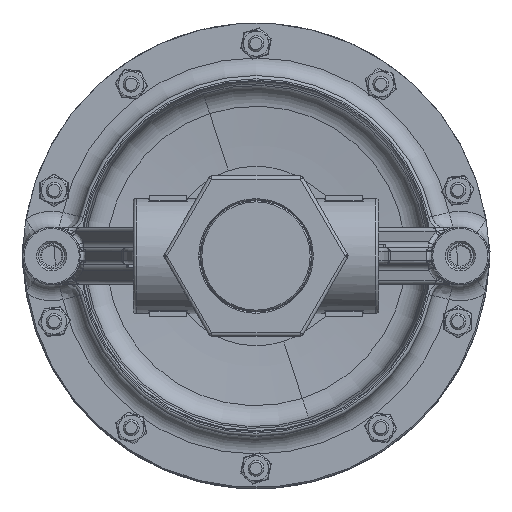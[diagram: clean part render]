
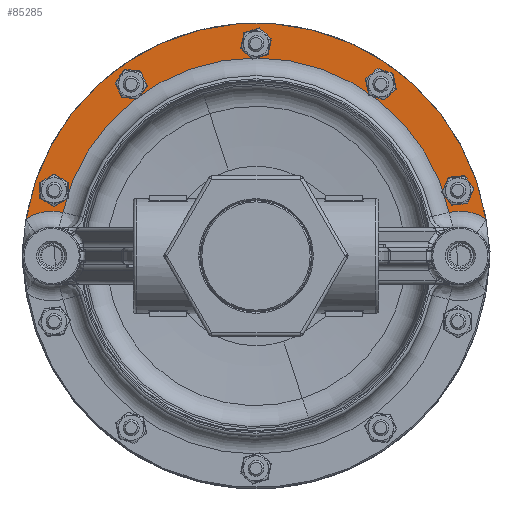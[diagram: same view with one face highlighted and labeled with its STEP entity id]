
A CAD part, front view. The second image highlights one B-rep face of the part: STEP entity #85285.
In plain terms, the highlighted planar face has unit normal (0, -1, 0) as drawn and (0, 0, -1) by its records, which use the part's own axes.
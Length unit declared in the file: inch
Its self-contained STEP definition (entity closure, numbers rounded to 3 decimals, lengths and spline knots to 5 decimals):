
#857 = AXIS2_PLACEMENT_3D ( 'NONE', #29812, #29813, #29814 ) ;
#863 = AXIS2_PLACEMENT_3D ( 'NONE', #29860, #29861, #29862 ) ;
#882 = AXIS2_PLACEMENT_3D ( 'NONE', #29999, #30000, #30001 ) ;
#884 = AXIS2_PLACEMENT_3D ( 'NONE', #30063, #30065, #30066 ) ;
#1033 = AXIS2_PLACEMENT_3D ( 'NONE', #30741, #30742, #30743 ) ;
#1208 = AXIS2_PLACEMENT_3D ( 'NONE', #8040, #8024, #8044 ) ;
#2348 = CARTESIAN_POINT ( 'NONE',  ( -2.10766, -2.67987, 0. ) ) ;
#6445 = VERTEX_POINT ( 'NONE', #85774 ) ;
#6655 = VERTEX_POINT ( 'NONE', #2348 ) ;
#8024 = DIRECTION ( 'NONE',  ( 0., 0., 1. ) ) ;
#8036 = PLANE ( 'NONE',  #1208 ) ;
#8040 = CARTESIAN_POINT ( 'NONE',  ( 0., 3.6875, 0. ) ) ;
#8044 = DIRECTION ( 'NONE',  ( 1., 0., 0. ) ) ;
#9058 = CARTESIAN_POINT ( 'NONE',  ( 2.98975, -1.02362, 0. ) ) ;
#11047 = EDGE_CURVE ( 'NONE', #98810, #98626, #105101, .T. ) ;
#11051 = EDGE_CURVE ( 'NONE', #98626, #83902, #105109, .T. ) ;
#11059 = EDGE_CURVE ( 'NONE', #98418, #6655, #105117, .T. ) ;
#11060 = EDGE_CURVE ( 'NONE', #98415, #98459, #105122, .T. ) ;
#11128 = EDGE_CURVE ( 'NONE', #98798, #6445, #105178, .T. ) ;
#11166 = EDGE_CURVE ( 'NONE', #83898, #98810, #105210, .T. ) ;
#11204 = EDGE_CURVE ( 'NONE', #73296, #73371, #105245, .T. ) ;
#11230 = EDGE_CURVE ( 'NONE', #73272, #85523, #105266, .T. ) ;
#11241 = EDGE_CURVE ( 'NONE', #83902, #83898, #105273, .T. ) ;
#14836 = CIRCLE ( 'NONE', #857, 0.16063 ) ;
#14856 = CIRCLE ( 'NONE', #863, 0.16063 ) ;
#16822 = CARTESIAN_POINT ( 'NONE',  ( 0.16063, -3.3125, 0. ) ) ;
#16825 = CARTESIAN_POINT ( 'NONE',  ( -1.78641, -2.67987, 0. ) ) ;
#16880 = CARTESIAN_POINT ( 'NONE',  ( -0.16063, -3.3125, 0. ) ) ;
#17062 = CARTESIAN_POINT ( 'NONE',  ( -3.01463, -0.67832, 0. ) ) ;
#17400 = CARTESIAN_POINT ( 'NONE',  ( -2.98975, -1.02362, 0. ) ) ;
#17433 = CARTESIAN_POINT ( 'NONE',  ( -3.5867, -0.57501, 0. ) ) ;
#24339 = EDGE_LOOP ( 'NONE', ( #54860, #83532, #54804, #54856 ) ) ;
#24371 = EDGE_LOOP ( 'NONE', ( #81953, #54599 ) ) ;
#24387 = EDGE_LOOP ( 'NONE', ( #54841, #82067 ) ) ;
#24398 = EDGE_LOOP ( 'NONE', ( #83498, #54798 ) ) ;
#24419 = EDGE_LOOP ( 'NONE', ( #82879, #55044 ) ) ;
#24439 = EDGE_LOOP ( 'NONE', ( #54598, #54544 ) ) ;
#29812 = CARTESIAN_POINT ( 'NONE',  ( -1.94704, -2.67987, 0. ) ) ;
#29813 = DIRECTION ( 'NONE',  ( 0., 0., 1. ) ) ;
#29814 = DIRECTION ( 'NONE',  ( 1., 0., 0. ) ) ;
#29860 = CARTESIAN_POINT ( 'NONE',  ( 1.94704, -2.67987, 0. ) ) ;
#29861 = DIRECTION ( 'NONE',  ( 0., 0., 1. ) ) ;
#29862 = DIRECTION ( 'NONE',  ( 1., 0., 0. ) ) ;
#29999 = CARTESIAN_POINT ( 'NONE',  ( -3.15037, -1.02362, 0. ) ) ;
#30000 = DIRECTION ( 'NONE',  ( 0., 0., 1. ) ) ;
#30001 = DIRECTION ( 'NONE',  ( 1., 0., 0. ) ) ;
#30063 = CARTESIAN_POINT ( 'NONE',  ( 3.15037, -1.02362, 0. ) ) ;
#30065 = DIRECTION ( 'NONE',  ( 0., 0., 1. ) ) ;
#30066 = DIRECTION ( 'NONE',  ( 1., 0., 0. ) ) ;
#30741 = CARTESIAN_POINT ( 'NONE',  ( 0., -3.3125, 0. ) ) ;
#30742 = DIRECTION ( 'NONE',  ( 0., 0., 1. ) ) ;
#30743 = DIRECTION ( 'NONE',  ( 1., 0., 0. ) ) ;
#31705 = CIRCLE ( 'NONE', #882, 0.16062 ) ;
#31721 = CIRCLE ( 'NONE', #884, 0.16062 ) ;
#32084 = CIRCLE ( 'NONE', #1033, 0.16063 ) ;
#35304 = CARTESIAN_POINT ( 'NONE',  ( 3.311, -1.02362, 0. ) ) ;
#35317 = CARTESIAN_POINT ( 'NONE',  ( 2.10766, -2.67987, 0. ) ) ;
#35365 = CARTESIAN_POINT ( 'NONE',  ( 1.78641, -2.67987, 0. ) ) ;
#39532 = CARTESIAN_POINT ( 'NONE',  ( 3.5867, -0.57501, 0. ) ) ;
#39546 = CARTESIAN_POINT ( 'NONE',  ( 3.01463, -0.67832, 0. ) ) ;
#54544 = ORIENTED_EDGE ( 'NONE', *, *, #11128, .T. ) ;
#54598 = ORIENTED_EDGE ( 'NONE', *, *, #72048, .T. ) ;
#54599 = ORIENTED_EDGE ( 'NONE', *, *, #11060, .T. ) ;
#54798 = ORIENTED_EDGE ( 'NONE', *, *, #11230, .T. ) ;
#54804 = ORIENTED_EDGE ( 'NONE', *, *, #11047, .T. ) ;
#54841 = ORIENTED_EDGE ( 'NONE', *, *, #71987, .T. ) ;
#54856 = ORIENTED_EDGE ( 'NONE', *, *, #11051, .T. ) ;
#54860 = ORIENTED_EDGE ( 'NONE', *, *, #11241, .T. ) ;
#55044 = ORIENTED_EDGE ( 'NONE', *, *, #11204, .T. ) ;
#59773 = CARTESIAN_POINT ( 'NONE',  ( 0., 0., 0. ) ) ;
#59775 = DIRECTION ( 'NONE',  ( 0., 0., -1. ) ) ;
#59777 = DIRECTION ( 'NONE',  ( 1., 0., 0. ) ) ;
#59922 = CARTESIAN_POINT ( 'NONE',  ( 1.94704, -2.67987, 0. ) ) ;
#59923 = DIRECTION ( 'NONE',  ( 0., 0., 1. ) ) ;
#59925 = DIRECTION ( 'NONE',  ( 1., 0., 0. ) ) ;
#60002 = CARTESIAN_POINT ( 'NONE',  ( 3.15037, -1.02362, 0. ) ) ;
#60004 = DIRECTION ( 'NONE',  ( 0., 0., 1. ) ) ;
#60006 = DIRECTION ( 'NONE',  ( 1., 0., 0. ) ) ;
#60034 = CARTESIAN_POINT ( 'NONE',  ( 3.1875, 0., 0. ) ) ;
#60036 = DIRECTION ( 'NONE',  ( 0., 0., 1. ) ) ;
#60038 = DIRECTION ( 'NONE',  ( 1., 0., 0. ) ) ;
#71987 = EDGE_CURVE ( 'NONE', #6655, #98418, #14836, .T. ) ;
#72005 = EDGE_CURVE ( 'NONE', #73371, #73296, #14856, .T. ) ;
#72048 = EDGE_CURVE ( 'NONE', #6445, #98798, #31705, .T. ) ;
#72064 = EDGE_CURVE ( 'NONE', #85523, #73272, #31721, .T. ) ;
#72258 = EDGE_CURVE ( 'NONE', #98459, #98415, #32084, .T. ) ;
#72814 = AXIS2_PLACEMENT_3D ( 'NONE', #97104, #97105, #97106 ) ;
#72817 = AXIS2_PLACEMENT_3D ( 'NONE', #97113, #97114, #97115 ) ;
#72825 = AXIS2_PLACEMENT_3D ( 'NONE', #97137, #97138, #97139 ) ;
#72826 = AXIS2_PLACEMENT_3D ( 'NONE', #97140, #97141, #97142 ) ;
#72851 = AXIS2_PLACEMENT_3D ( 'NONE', #97238, #97239, #97240 ) ;
#72860 = AXIS2_PLACEMENT_3D ( 'NONE', #59773, #59775, #59777 ) ;
#72874 = AXIS2_PLACEMENT_3D ( 'NONE', #59922, #59923, #59925 ) ;
#72885 = AXIS2_PLACEMENT_3D ( 'NONE', #60002, #60004, #60006 ) ;
#72889 = AXIS2_PLACEMENT_3D ( 'NONE', #60034, #60036, #60038 ) ;
#73272 = VERTEX_POINT ( 'NONE', #35304 ) ;
#73296 = VERTEX_POINT ( 'NONE', #35317 ) ;
#73371 = VERTEX_POINT ( 'NONE', #35365 ) ;
#81953 = ORIENTED_EDGE ( 'NONE', *, *, #72258, .T. ) ;
#82067 = ORIENTED_EDGE ( 'NONE', *, *, #11059, .T. ) ;
#82229 = FACE_BOUND ( 'NONE', #24439, .T. ) ;
#82238 = FACE_BOUND ( 'NONE', #24387, .T. ) ;
#82243 = FACE_BOUND ( 'NONE', #24398, .T. ) ;
#82247 = FACE_BOUND ( 'NONE', #24371, .T. ) ;
#82254 = FACE_BOUND ( 'NONE', #24419, .T. ) ;
#82256 = FACE_OUTER_BOUND ( 'NONE', #24339, .T. ) ;
#82879 = ORIENTED_EDGE ( 'NONE', *, *, #72005, .T. ) ;
#83498 = ORIENTED_EDGE ( 'NONE', *, *, #72064, .T. ) ;
#83532 = ORIENTED_EDGE ( 'NONE', *, *, #11166, .T. ) ;
#83898 = VERTEX_POINT ( 'NONE', #39532 ) ;
#83902 = VERTEX_POINT ( 'NONE', #39546 ) ;
#85285 = ADVANCED_FACE ( 'NONE', ( #82243, #82254, #82247, #82238, #82229, #82256 ), #8036, .F. ) ;
#85523 = VERTEX_POINT ( 'NONE', #9058 ) ;
#85774 = CARTESIAN_POINT ( 'NONE',  ( -3.311, -1.02362, 0. ) ) ;
#97104 = CARTESIAN_POINT ( 'NONE',  ( -3.1875, 0., 0. ) ) ;
#97105 = DIRECTION ( 'NONE',  ( 0., 0., 1. ) ) ;
#97106 = DIRECTION ( 'NONE',  ( 1., 0., 0. ) ) ;
#97113 = CARTESIAN_POINT ( 'NONE',  ( 0., 0., 0. ) ) ;
#97114 = DIRECTION ( 'NONE',  ( 0., 0., 1. ) ) ;
#97115 = DIRECTION ( 'NONE',  ( 1., 0., 0. ) ) ;
#97137 = CARTESIAN_POINT ( 'NONE',  ( -1.94704, -2.67987, 0. ) ) ;
#97138 = DIRECTION ( 'NONE',  ( 0., 0., 1. ) ) ;
#97139 = DIRECTION ( 'NONE',  ( 1., 0., 0. ) ) ;
#97140 = CARTESIAN_POINT ( 'NONE',  ( 0., -3.3125, 0. ) ) ;
#97141 = DIRECTION ( 'NONE',  ( 0., 0., 1. ) ) ;
#97142 = DIRECTION ( 'NONE',  ( 1., 0., 0. ) ) ;
#97238 = CARTESIAN_POINT ( 'NONE',  ( -3.15037, -1.02362, 0. ) ) ;
#97239 = DIRECTION ( 'NONE',  ( 0., 0., 1. ) ) ;
#97240 = DIRECTION ( 'NONE',  ( 1., 0., 0. ) ) ;
#98415 = VERTEX_POINT ( 'NONE', #16822 ) ;
#98418 = VERTEX_POINT ( 'NONE', #16825 ) ;
#98459 = VERTEX_POINT ( 'NONE', #16880 ) ;
#98626 = VERTEX_POINT ( 'NONE', #17062 ) ;
#98798 = VERTEX_POINT ( 'NONE', #17400 ) ;
#98810 = VERTEX_POINT ( 'NONE', #17433 ) ;
#105101 = CIRCLE ( 'NONE', #72814, 0.7 ) ;
#105109 = CIRCLE ( 'NONE', #72817, 3.09 ) ;
#105117 = CIRCLE ( 'NONE', #72825, 0.16063 ) ;
#105122 = CIRCLE ( 'NONE', #72826, 0.16063 ) ;
#105178 = CIRCLE ( 'NONE', #72851, 0.16062 ) ;
#105210 = CIRCLE ( 'NONE', #72860, 3.6325 ) ;
#105245 = CIRCLE ( 'NONE', #72874, 0.16063 ) ;
#105266 = CIRCLE ( 'NONE', #72885, 0.16062 ) ;
#105273 = CIRCLE ( 'NONE', #72889, 0.7 ) ;
